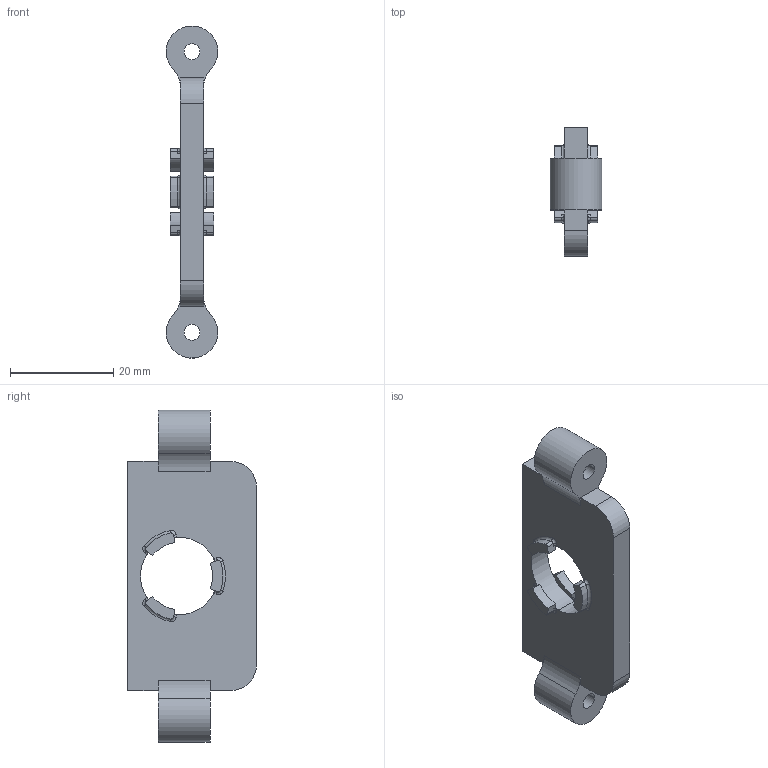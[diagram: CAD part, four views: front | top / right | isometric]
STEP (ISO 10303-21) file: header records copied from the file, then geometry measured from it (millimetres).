
FILE_DESCRIPTION((''),'2;1');
FILE_NAME('0000237296_PRT','2025-11-12T18:39:26',('Wyndorps'),(''),'CREO PARAMETRIC BY PTC INC, 2025010','CREO PARAMETRIC BY PTC INC, 2025010','');
FILE_SCHEMA(('CONFIG_CONTROL_DESIGN'));
Length unit declared in the file: millimetre
Products named in the file (1): 0000237296_PRT
Bounding box: 9.98 x 25 x 64.36 mm (x, y, z)
Volume: 5757.5 mm3; surface area: 3842.8 mm2
Topology: 1 solids, 1 shells, 104 faces, 282 edges, 180 vertices
Faces by surface type: cylinder 50, plane 36, torus 18
Entity records: 3450 total; most frequent: CARTESIAN_POINT 686, DIRECTION 608, ORIENTED_EDGE 564, EDGE_CURVE 282, AXIS2_PLACEMENT_3D 234, VERTEX_POINT 180, VECTOR 140, LINE 140
